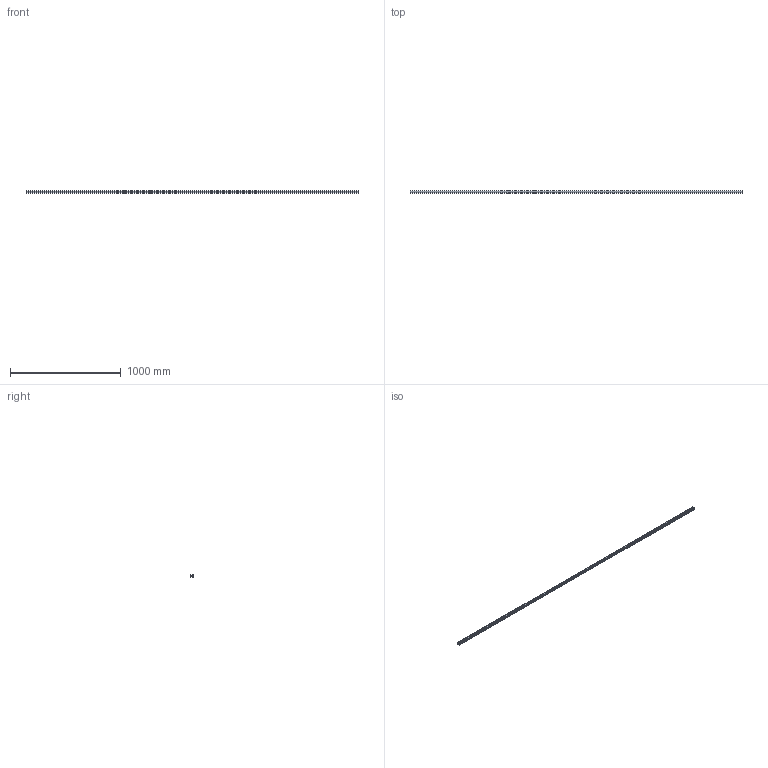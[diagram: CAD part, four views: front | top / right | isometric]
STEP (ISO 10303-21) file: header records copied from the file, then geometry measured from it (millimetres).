
FILE_DESCRIPTION (( 'STEP AP214' ), '1' );
FILE_NAME ('FABER - AC2A8.STEP', '2017-04-06T07:33:27', ( '' ), ( '' ), 'SwSTEP 2.0', 'SolidWorks 2016', '' );
FILE_SCHEMA (( 'AUTOMOTIVE_DESIGN' ));
Length unit declared in the file: millimetre
Products named in the file (1): FABER - AC2A8
Bounding box: 3000 x 21.5 x 20.25 mm (x, y, z)
Volume: 528955.1 mm3; surface area: 414450.9 mm2
Topology: 1 solids, 1 shells, 38 faces, 108 edges, 72 vertices
Faces by surface type: plane 22, cylinder 16
Entity records: 1278 total; most frequent: CARTESIAN_POINT 219, DIRECTION 218, ORIENTED_EDGE 216, EDGE_CURVE 108, VECTOR 76, LINE 76, VERTEX_POINT 72, AXIS2_PLACEMENT_3D 71
